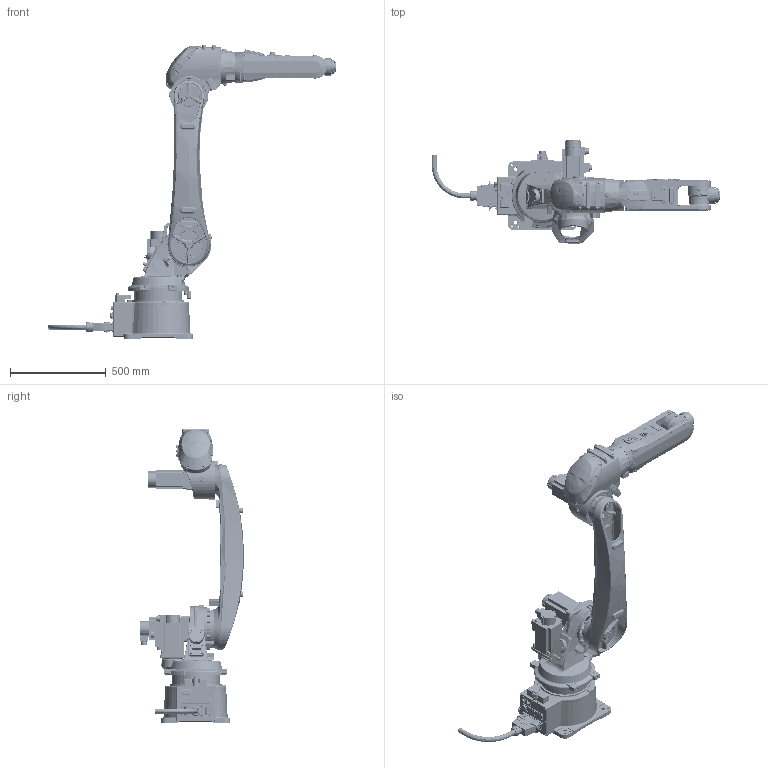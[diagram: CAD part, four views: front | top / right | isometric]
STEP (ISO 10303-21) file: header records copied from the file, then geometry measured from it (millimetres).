
FILE_DESCRIPTION(/* description */ (''),/* implementation_level */ '2;1');
FILE_NAME(/* name */ 'XB25s-R1617 简化模型(20200417).stp',/* time_stamp */ '2020-04-17T22:42:37+08:00',/* author */ (''),/* organization */ (''),/* preprocessor_version */ 'ST-DEVELOPER v16',/* originating_system */ 'SIEMENS PLM Software NX 10.0',/* authorisation */ '');
FILE_SCHEMA (('CONFIG_CONTROL_DESIGN'));
Products named in the file (8): XB25s-R1617-06; XB25s-R1617-04; XB25s-R1617-05; XB25s-R1617-03; XB25s-R1617-02; XB25s-R1617-01; XB25s-R1617-base; XB25s-R1617 简化模型_20200417__stp
Assembly tree (7 placements, depth 2):
  XB25s-R1617 简化模型_20200417__stp
    XB25s-R1617-base
    XB25s-R1617-01
    XB25s-R1617-02
    XB25s-R1617-03
    XB25s-R1617-05
    XB25s-R1617-04
    XB25s-R1617-06
Bounding box: 1508.72 x 541.86 x 1533 mm (x, y, z)
Volume: 71379415.1 mm3; surface area: 3321197.4 mm2
Topology: 10 solids, 37 shells, 6503 faces, 15948 edges, 9875 vertices
Faces by surface type: plane 2386, cylinder 1562, bspline 1304, cone 431, torus 362, extrusion 332, sphere 126
Full cylindrical faces by diameter (mm): 2.5 x4, 3 x4, 3.3 x6, 4.2 x8, 4.75 x4, 5 x20, 5.1 x4, 5.5 x42, 5.6 x15, 6 x1, 6.6 x2, 6.725 x4, 6.8 x16, 7 x69, 7.782 x2, 8.5 x2, 9.728 x2, 9.732 x4, 10 x24, 10.272 x2, 10.3 x8, 11 x6, 11.2 x1, 12.42 x1, 13 x27, 13.5 x1, 14 x17, 15 x2, 16 x42, 18 x5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
Entity records: 249103 total; most frequent: CARTESIAN_POINT 110256, ORIENTED_EDGE 29312, DIRECTION 25887, EDGE_CURVE 14656, AXIS2_PLACEMENT_3D 9729, VERTEX_POINT 9500, EDGE_LOOP 7791, ADVANCED_FACE 6503
